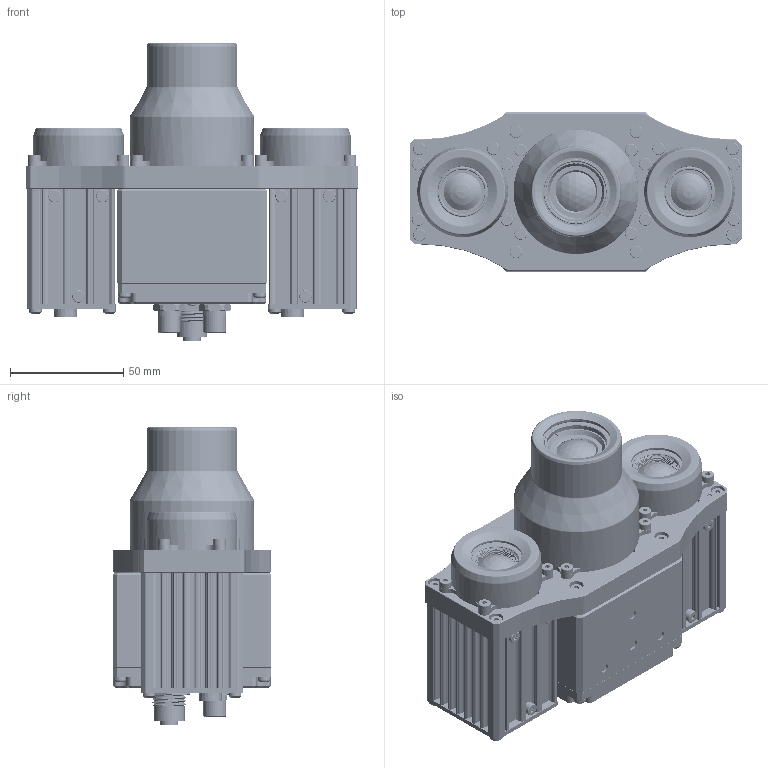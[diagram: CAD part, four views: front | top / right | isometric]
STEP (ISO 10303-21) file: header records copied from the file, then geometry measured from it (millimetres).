
FILE_DESCRIPTION(/* description */ (''),/* implementation_level */ '2;1');
FILE_NAME(/* name */ '115540.stp',/* time_stamp */ '2025-06-23T09:21:30+02:00',/* author */ (''),/* organization */ (''),/* preprocessor_version */ 'ST-DEVELOPER v20',/* originating_system */ 'Autodesk Inventor 2024',/* authorisation */ '');
FILE_SCHEMA (('CONFIG_CONTROL_DESIGN'));
Products named in the file (1): 115540
Bounding box: 146.3 x 70 x 131 mm (x, y, z)
Volume: 606890.8 mm3; surface area: 105916.5 mm2
Topology: 1 solids, 1 shells, 5196 faces, 14307 edges, 9263 vertices
Faces by surface type: cylinder 2246, plane 2227, cone 318, bspline 254, torus 133, sphere 18
Full cylindrical faces by diameter (mm): 0.7 x12, 0.95 x12, 1 x8, 1.2 x4, 1.3 x2, 1.4 x12, 1.567 x4, 2.5 x5, 2.7 x2, 3 x16, 3.3 x14, 3.4 x4, 4.2 x6, 5.105 x1, 5.5 x28, 5.6 x12, 5.8 x2, 6.3 x10, 6.917 x2, 7 x2, 7.6 x2, 8 x2, 10 x2, 10.857 x11, 11.94 x11, 13.256 x5, 13.44 x1, 14 x1, 16.5 x2, 16.9 x2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
Entity records: 189243 total; most frequent: CARTESIAN_POINT 49963, ORIENTED_EDGE 28530, DIRECTION 28106, EDGE_CURVE 14265, AXIS2_PLACEMENT_3D 10050, VERTEX_POINT 9263, LINE 8006, VECTOR 8006
